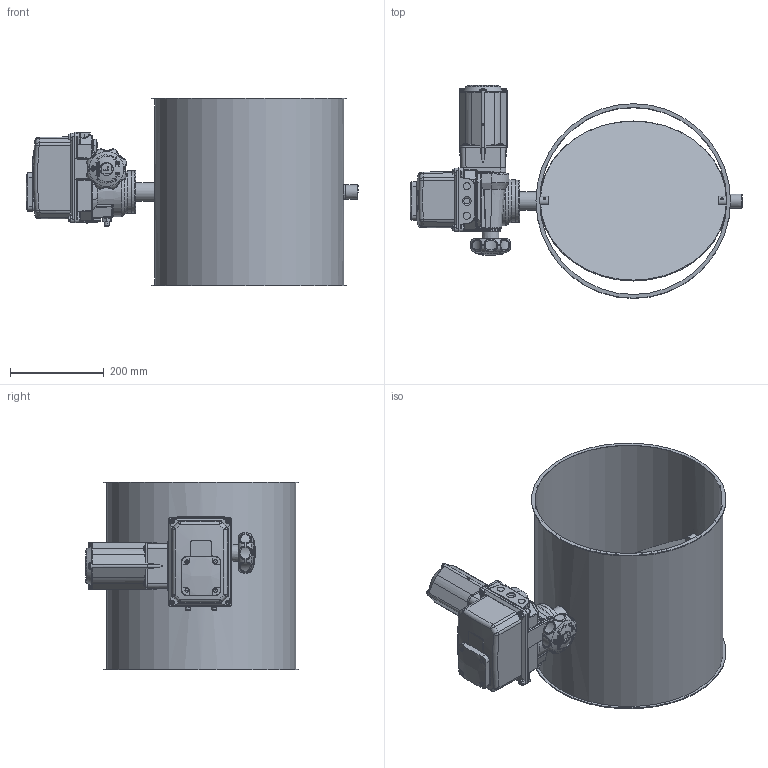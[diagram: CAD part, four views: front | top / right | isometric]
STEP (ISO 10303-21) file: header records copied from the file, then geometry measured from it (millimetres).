
FILE_DESCRIPTION((''),'2;1');
FILE_NAME('U:\Wolfgang\Marcel-3D\fertig\Kapitel 8\4021217.stp','2012-01-13T11:23:52',('iwienholt'),(''),'Autodesk Inventor 2010','Autodesk Inventor 2010','');
FILE_SCHEMA(('AUTOMOTIVE_DESIGN { 1 0 10303 214 1 1 1 1 }'));
Length unit declared in the file: millimetre
Products named in the file (7): 4021217; Bolzen D20; Scheibe400b; D20 Antrieb OAP; BuchseD20 90-50; OAP; 4021217-1
Assembly tree (7 placements, depth 3):
  4021217
    Bolzen D20  x2
    Scheibe400b
    D20 Antrieb OAP
      BuchseD20 90-50
      OAP
    4021217-1
Bounding box: 706.46 x 453 x 400 mm (x, y, z)
Volume: 6836939.7 mm3; surface area: 1572688.8 mm2
Topology: 6 solids, 6 shells, 1798 faces, 4675 edges, 3005 vertices
Faces by surface type: plane 968, cylinder 309, bspline 295, sphere 94, torus 83, cone 49
Full cylindrical faces by diameter (mm): 5 x4, 5.1 x8, 6 x4, 6.9 x8, 8 x4, 10 x4, 15 x2, 20 x4, 20.5 x1, 28 x1, 30 x2, 35 x1, 40 x2, 42 x1, 90 x1, 398 x2, 402 x1, 414 x2
Entity records: 73350 total; most frequent: CARTESIAN_POINT 30138, ORIENTED_EDGE 9004, DIRECTION 7959, EDGE_CURVE 4502, VERTEX_POINT 2953, AXIS2_PLACEMENT_3D 2876, VECTOR 2207, LINE 2207
